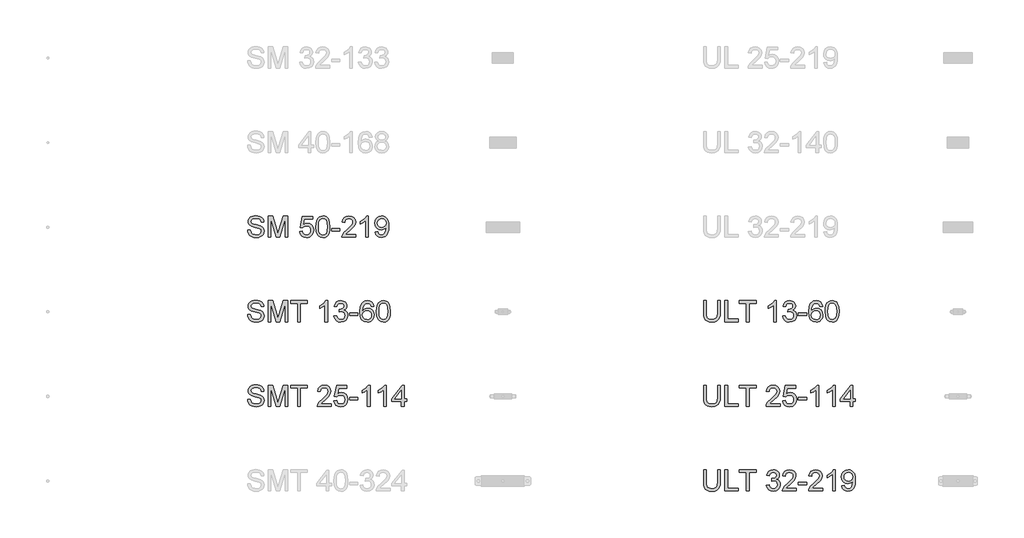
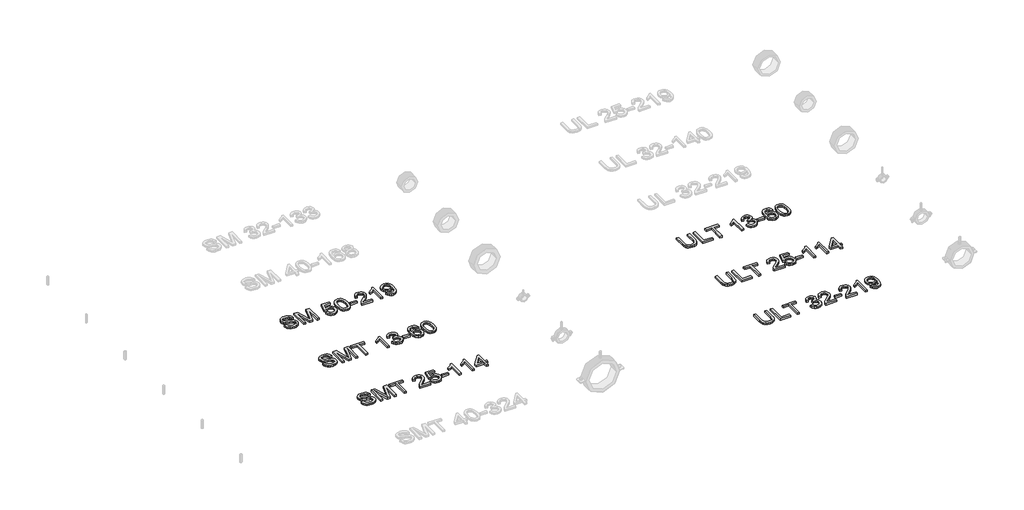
# One storey, part 6 of 10: 6 proxies.
"""IFC4 building model written with IfcOpenShell, lengths in millimetres."""

from ifc_helpers import new_model, si_unit, origin, origin_with_axes, place, context, project, spatial, polyline, outline, extrude, element, save

model = new_model("IFC4")

# Units and contexts
model_context = context("Model", 3, world=origin())
ifc_project = project(units=[si_unit("LENGTHUNIT", "METRE", prefix="MILLI")], contexts=[model_context])

# Site, building, storey
site = spatial("IfcSite", under=ifc_project)
building = spatial("IfcBuilding", under=site)
storey = spatial("IfcBuildingStorey", under=building, Name="Этаж 01", Elevation=0.0)

# Proxies
placement = place(None, origin())
element("IfcBuildingElementProxy", 1, Name="200 мм Arial", ObjectType="200 мм Arial", at=placement, inside=storey, context=model_context, shape_type="SweptSolid", body=[
    extrude(outline(polyline([(9162.1098597, -4725.9144615), (9187.2239373, -4725.9144615), (9195.3173412, -4751.0530645), (9203.4475333, -4759.9435461), (9215.084867, -4766.9455667), (9229.3096375, -4771.4889093), (9245.2021397, -4773.0033569), (9271.4443887, -4768.4170947), (9288.3914859, -4755.811005), (9293.9587668, -4738.9620096), (9289.7894375, -4723.2902366), (9283.4373417, -4717.091425), (9272.7197129, -4711.8858947), (9236.1522426, -4702.2964374), (9196.7888691, -4689.9110769), (9184.2870127, -4681.4620537), (9175.427188, -4671.2226715), (9170.1480813, -4659.4136595), (9168.3883791, -4646.2557468), (9170.5650143, -4631.5465984), (9177.0949197, -4617.8307313), (9187.8064171, -4606.2056603), (9202.5278283, -4597.7688998), (9220.1984268, -4592.636946), (9239.7574862, -4590.9262947), (9260.9474891, -4592.7166538), (9279.4887417, -4598.0877309), (9294.7190563, -4606.9291615), (9305.9762453, -4619.130581), (9313.1008933, -4633.9317), (9315.9335846, -4650.5722289), (9290.8195071, -4650.5722289), (9286.2087194, -4635.5871689), (9276.5947366, -4624.7714383), (9261.5728885, -4618.2231388), (9240.7385048, -4616.0403723), (9219.4136118, -4618.1986133), (9204.7841712, -4624.6733364), (9196.3228853, -4634.2014801), (9193.5024567, -4645.5199828), (9195.5012822, -4655.1707538), (9201.4977587, -4662.9330639), (9215.6734782, -4669.8737709), (9242.5043384, -4676.9616307), (9286.9444834, -4689.5677204), (9301.2612244, -4698.6789311), (9311.2492206, -4709.9238574), (9317.1169384, -4723.179872), (9319.0728443, -4738.3243475), (9316.8226328, -4753.8060481), (9310.0719982, -4768.3680437), (9299.096852, -4780.900557), (9284.1731057, -4790.2938107), (9266.2265957, -4796.1615285), (9246.1831584, -4798.1174344), (9221.5779843, -4796.0082443), (9201.3260804, -4789.680674), (9185.1944549, -4779.110198), (9172.9501159, -4764.2722909), (9165.0897039, -4746.1970222), (9162.1098597, -4725.9144615)])), origin_with_axes(), (0.0, 0.0, 1.0), 20.0),
    extrude(outline(polyline([(9356.7439606, -4794.9781747), (9356.7439606, -4594.0655544), (9399.9578323, -4594.0655544), (9441.0625139, -4735.6755971), (9449.3521216, -4765.2533095), (9458.3284422, -4733.2230505), (9498.7464108, -4594.0655544), (9541.9602825, -4594.0655544), (9541.9602825, -4794.9781747), (9516.8462049, -4794.9781747), (9516.8462049, -4619.179632), (9466.3727952, -4794.9781747), (9432.3314479, -4794.9781747), (9381.8580382, -4619.179632), (9381.8580382, -4794.9781747), (9356.7439606, -4794.9781747)])), origin_with_axes(), (0.0, 0.0, 1.0), 20.0),
    extrude(outline(polyline([(9654.9736314, -4741.61076), (9680.0877089, -4738.4715003), (9684.6984966, -4753.5485307), (9692.7428496, -4764.3458673), (9704.1839796, -4770.8389845), (9718.9850986, -4773.0033569), (9736.9867909, -4769.9928559), (9750.4757973, -4760.9613529), (9758.900295, -4746.9511803), (9761.7084609, -4729.0046703), (9759.0781047, -4712.1066239), (9751.1870359, -4699.1817032), (9737.9739409, -4690.9779347), (9719.377506, -4688.2433452), (9697.3291118, -4692.6088782), (9683.2269686, -4703.9396437), (9658.1128911, -4700.800384), (9680.0877089, -4597.2048141), (9777.4047594, -4597.2048141), (9777.4047594, -4622.3188917), (9700.3947951, -4622.3188917), (9689.6526408, -4677.6483437), (9707.5930194, -4666.7590367), (9726.3917894, -4663.1292677), (9749.8565293, -4667.6296907), (9769.335881, -4681.13096), (9782.4508741, -4701.7078262), (9786.8225385, -4727.4350404), (9782.8862011, -4752.5491179), (9771.0771891, -4774.0334265), (9760.6416031, -4784.5701799), (9748.4647091, -4792.0964324), (9734.546507, -4796.6121839), (9718.8869967, -4798.1174344), (9694.2205089, -4794.2485421), (9674.569479, -4782.6418652), (9661.0988666, -4764.6463042), (9654.9736314, -4741.61076)])), origin_with_axes(), (0.0, 0.0, 1.0), 20.0),
    extrude(outline(polyline([(9808.7973563, -4696.1405454), (9810.6428977, -4663.9815276), (9816.1795217, -4638.3340212), (9825.3520461, -4618.8056186), (9838.1052886, -4605.0039124), (9854.5312197, -4596.8001439), (9874.7218099, -4594.0655544), (9890.1973791, -4595.6842352), (9904.0542676, -4600.5402775), (9915.6425505, -4608.4436091), (9924.3123028, -4619.2041574), (9936.0845266, -4648.9290226), (9940.6462634, -4696.1405454), (9938.8191161, -4728.1156221), (9933.3376744, -4753.7018149), (9924.2203323, -4773.2486115), (9911.4854839, -4787.1055), (9895.0227646, -4795.3644508), (9874.7218099, -4798.1174344), (9848.6267137, -4793.3349685), (9828.8101369, -4778.9875707), (9820.0545454, -4763.8584236), (9813.8005515, -4745.007537), (9808.7973563, -4696.1405454)]), holes=[polyline([(9833.9114339, -4696.0914944), (9836.8544898, -4735.5958893), (9845.6836577, -4758.4597553), (9858.8293077, -4769.3674565), (9874.7218099, -4773.0033569), (9890.614312, -4769.3551938), (9903.759962, -4758.4107044), (9912.5891299, -4735.5345757), (9915.5321859, -4696.0914944), (9912.6872318, -4657.4761477), (9904.1523695, -4634.434472), (9891.031245, -4622.993342), (9874.4275043, -4619.179632), (9858.7066803, -4622.5396209), (9846.0760652, -4632.6195875), (9836.9525917, -4657.0960029), (9833.9114339, -4696.0914944)])]), origin_with_axes(), (0.0, 0.0, 1.0), 20.0),
    extrude(outline(polyline([(9956.3425619, -4735.3322406), (9956.3425619, -4710.218163), (10034.8240542, -4710.218163), (10034.8240542, -4735.3322406), (9956.3425619, -4735.3322406)])), origin_with_axes(), (0.0, 0.0, 1.0), 20.0),
    extrude(outline(polyline([(10185.5085194, -4769.8640972), (10185.5085194, -4794.9781747), (10053.6596123, -4794.9781747), (10056.3574136, -4777.6631955), (10071.6122537, -4751.0040136), (10103.0539015, -4721.892285), (10146.414926, -4680.0518394), (10154.5451181, -4665.6308652), (10157.2551822, -4651.6022985), (10154.6984023, -4639.0268656), (10147.0280627, -4628.5728856), (10135.2374447, -4621.5279454), (10120.3198298, -4619.179632), (10104.6541882, -4621.4727631), (10092.4834255, -4628.3521564), (10084.6291449, -4639.2782516), (10081.9129495, -4653.7114886), (10056.798872, -4650.5722289), (10062.887319, -4626.2797545), (10076.0513631, -4608.5355796), (10095.6042911, -4597.6830607), (10120.8593901, -4594.0655544), (10146.2984301, -4598.0877309), (10165.8145699, -4610.1542603), (10178.2305872, -4628.1804781), (10182.3692597, -4650.0817196), (10177.9056248, -4673.8959474), (10163.0677177, -4698.5195156), (10127.0888585, -4732.9287449), (10098.1978592, -4757.0863292), (10086.8670937, -4769.8640972), (10185.5085194, -4769.8640972)])), origin_with_axes(), (0.0, 0.0, 1.0), 20.0),
    extrude(outline(polyline([(10304.8003877, -4794.9781747), (10279.6863101, -4794.9781747), (10279.6863101, -4638.4075976), (10255.8966078, -4655.3546948), (10229.4581551, -4668.0343609), (10229.4581551, -4644.2937095), (10266.2708801, -4620.7983127), (10279.7414924, -4607.2234671), (10288.6135799, -4594.0655544), (10304.8003877, -4594.0655544), (10304.8003877, -4794.9781747)])), origin_with_axes(), (0.0, 0.0, 1.0), 20.0),
    extrude(outline(polyline([(10367.5855815, -4744.7500196), (10392.6996591, -4741.61076), (10396.9916157, -4755.8661873), (10403.9813736, -4765.5721406), (10413.4972545, -4771.1455528), (10425.3675802, -4773.0033569), (10445.6991918, -4768.2208909), (10459.4825039, -4755.443123), (10467.6985351, -4733.6154579), (10471.3283042, -4704.4792039), (10471.1811514, -4699.5741106), (10462.4807422, -4710.1936376), (10451.0947944, -4718.6058725), (10437.8449112, -4724.0873143), (10423.5526957, -4725.9144615), (10400.6520415, -4721.4508266), (10381.5896228, -4708.059922), (10368.7321471, -4687.3726911), (10364.4463218, -4661.0200775), (10368.9406135, -4633.7968099), (10382.4234887, -4612.4596542), (10402.6753925, -4598.6640794), (10427.4767703, -4594.0655544), (10446.2080953, -4596.6897793), (10463.2594257, -4604.562454), (10477.5209844, -4617.2911711), (10487.8829939, -4634.483523), (10494.1921702, -4658.2486999), (10496.2952289, -4690.6958918), (10494.1983015, -4725.0989897), (10487.9075194, -4751.6907266), (10477.4780649, -4771.6728503), (10462.9651201, -4786.2471087), (10444.9940847, -4795.149853), (10424.1903579, -4798.1174344), (10402.7183121, -4794.6164241), (10385.5872738, -4784.1133931), (10373.6065835, -4767.2705291), (10367.5855815, -4744.7500196)]), holes=[polyline([(10471.1811514, -4660.4314664), (10468.4710873, -4643.4107927), (10460.3408952, -4630.3141937), (10447.7225428, -4621.9632724), (10431.5479978, -4619.179632), (10414.7725788, -4622.1778702), (10401.3326232, -4631.172585), (10392.5034553, -4644.937503), (10389.5603994, -4662.2463509), (10392.3440398, -4677.7648397), (10400.6949611, -4690.0827552), (10413.8038229, -4698.1209768), (10430.8612847, -4700.800384), (10446.9070711, -4698.1209768), (10459.8258604, -4690.0827552), (10468.3423286, -4677.3111186), (10471.1811514, -4660.4314664)])]), origin_with_axes(), (0.0, 0.0, 1.0), 20.0),
])
element("IfcBuildingElementProxy", 2, Name="200 мм Arial", ObjectType="200 мм Arial", at=placement, inside=storey, context=model_context, shape_type="SweptSolid", body=[
    extrude(outline(polyline([(9162.1098597, -5525.9144615), (9187.2239373, -5525.9144615), (9195.3173412, -5551.0530645), (9203.4475333, -5559.9435461), (9215.084867, -5566.9455667), (9229.3096375, -5571.4889093), (9245.2021397, -5573.0033569), (9271.4443887, -5568.4170947), (9288.3914859, -5555.811005), (9293.9587668, -5538.9620096), (9289.7894375, -5523.2902366), (9283.4373417, -5517.091425), (9272.7197129, -5511.8858947), (9236.1522426, -5502.2964374), (9196.7888691, -5489.9110769), (9184.2870127, -5481.4620537), (9175.427188, -5471.2226715), (9170.1480813, -5459.4136595), (9168.3883791, -5446.2557468), (9170.5650143, -5431.5465984), (9177.0949197, -5417.8307313), (9187.8064171, -5406.2056603), (9202.5278283, -5397.7688998), (9220.1984268, -5392.636946), (9239.7574862, -5390.9262947), (9260.9474891, -5392.7166538), (9279.4887417, -5398.0877309), (9294.7190563, -5406.9291615), (9305.9762453, -5419.130581), (9313.1008933, -5433.9317), (9315.9335846, -5450.5722289), (9290.8195071, -5450.5722289), (9286.2087194, -5435.5871689), (9276.5947366, -5424.7714383), (9261.5728885, -5418.2231388), (9240.7385048, -5416.0403723), (9219.4136118, -5418.1986133), (9204.7841712, -5424.6733364), (9196.3228853, -5434.2014801), (9193.5024567, -5445.5199828), (9195.5012822, -5455.1707538), (9201.4977587, -5462.9330639), (9215.6734782, -5469.8737709), (9242.5043384, -5476.9616307), (9286.9444834, -5489.5677204), (9301.2612244, -5498.6789311), (9311.2492206, -5509.9238574), (9317.1169384, -5523.179872), (9319.0728443, -5538.3243475), (9316.8226328, -5553.8060481), (9310.0719982, -5568.3680437), (9299.096852, -5580.900557), (9284.1731057, -5590.2938107), (9266.2265957, -5596.1615285), (9246.1831584, -5598.1174344), (9221.5779843, -5596.0082443), (9201.3260804, -5589.680674), (9185.1944549, -5579.110198), (9172.9501159, -5564.2722909), (9165.0897039, -5546.1970222), (9162.1098597, -5525.9144615)])), origin_with_axes(), (0.0, 0.0, 1.0), 20.0),
    extrude(outline(polyline([(9356.7439606, -5594.9781747), (9356.7439606, -5394.0655544), (9399.9578323, -5394.0655544), (9441.0625139, -5535.6755971), (9449.3521216, -5565.2533095), (9458.3284422, -5533.2230505), (9498.7464108, -5394.0655544), (9541.9602825, -5394.0655544), (9541.9602825, -5594.9781747), (9516.8462049, -5594.9781747), (9516.8462049, -5419.179632), (9466.3727952, -5594.9781747), (9432.3314479, -5594.9781747), (9381.8580382, -5419.179632), (9381.8580382, -5594.9781747), (9356.7439606, -5594.9781747)])), origin_with_axes(), (0.0, 0.0, 1.0), 20.0),
    extrude(outline(polyline([(9636.1380732, -5594.9781747), (9636.1380732, -5419.179632), (9570.2136197, -5419.179632), (9570.2136197, -5394.0655544), (9727.1766043, -5394.0655544), (9727.1766043, -5419.179632), (9661.2521508, -5419.179632), (9661.2521508, -5594.9781747), (9636.1380732, -5594.9781747)])), origin_with_axes(), (0.0, 0.0, 1.0), 20.0),
    extrude(outline(polyline([(9918.6714455, -5594.9781747), (9893.557368, -5594.9781747), (9893.557368, -5438.4075976), (9869.7676657, -5455.3546948), (9843.3292129, -5468.0343609), (9843.3292129, -5444.2937095), (9880.1419379, -5420.7983127), (9893.6125503, -5407.2234671), (9902.4846378, -5394.0655544), (9918.6714455, -5394.0655544), (9918.6714455, -5594.9781747)])), origin_with_axes(), (0.0, 0.0, 1.0), 20.0),
    extrude(outline(polyline([(9978.3173797, -5541.61076), (10003.4314572, -5538.4715003), (10009.0539204, -5554.2536379), (10017.2883457, -5564.909953), (10028.5394034, -5570.9800059), (10043.2117636, -5573.0033569), (10060.428641, -5570.2197164), (10073.7214438, -5561.8687952), (10082.2195179, -5549.4098583), (10085.0522092, -5534.302171), (10082.2440433, -5519.9609045), (10073.8195456, -5508.3297021), (10061.0663031, -5500.6225743), (10045.2719028, -5498.0535317), (10027.662618, -5500.800384), (10030.4585211, -5475.6863064), (10034.4806976, -5475.980612), (10049.5270712, -5474.1779902), (10062.9792895, -5468.7701249), (10072.470645, -5459.622126), (10075.6344302, -5446.5991033), (10073.3412991, -5435.7527158), (10066.4619057, -5426.9542048), (10055.9650061, -5421.1232752), (10042.8193562, -5419.179632), (10029.6491808, -5421.1416693), (10018.882501, -5427.0277812), (10011.0220891, -5436.8379677), (10006.5707169, -5450.5722289), (9981.4566394, -5447.4329692), (9988.8510675, -5424.8818029), (10002.0089802, -5408.0450702), (10020.0106725, -5397.5604334), (10041.9364394, -5394.0655544), (10057.7247084, -5395.7884684), (10072.2253903, -5400.9572105), (10084.4513353, -5409.111928), (10093.4153933, -5419.7927686), (10098.9152291, -5432.0984214), (10100.7485077, -5445.1275754), (10099.0071996, -5457.2676812), (10093.7832752, -5468.2796156), (10085.1503111, -5477.6606065), (10073.1818835, -5484.9078818), (10088.9027074, -5491.2599776), (10100.552304, -5502.0757082), (10107.7627911, -5516.7664625), (10110.1662868, -5534.7436294), (10105.3592954, -5559.2200448), (10090.9383212, -5579.6742837), (10069.1719698, -5593.5066467), (10042.3288469, -5598.1174344), (10018.0486352, -5594.1810971), (9998.2811093, -5582.372085), (9984.5345854, -5564.3090791), (9978.3173797, -5541.61076)])), origin_with_axes(), (0.0, 0.0, 1.0), 20.0),
    extrude(outline(polyline([(10125.8625852, -5535.3322406), (10125.8625852, -5510.218163), (10204.3440775, -5510.218163), (10204.3440775, -5535.3322406), (10125.8625852, -5535.3322406)])), origin_with_axes(), (0.0, 0.0, 1.0), 20.0),
    extrude(outline(polyline([(10355.0285428, -5447.4329692), (10329.9144652, -5450.5722289), (10320.3985843, -5429.6274806), (10309.0065052, -5421.7915941), (10295.2354558, -5419.179632), (10272.5739249, -5425.2619476), (10263.1377517, -5434.8697991), (10255.4306239, -5448.0951568), (10250.2250937, -5466.8019562), (10248.2937132, -5492.8541329), (10258.3675485, -5481.1003031), (10270.4402093, -5472.8168269), (10283.8372453, -5467.9056022), (10297.8842062, -5466.2685273), (10321.0852973, -5470.744425), (10340.5585176, -5484.1721178), (10353.7654812, -5504.6876704), (10358.1678024, -5530.4271473), (10356.0954005, -5548.4104455), (10349.8781948, -5565.0816312), (10340.0312201, -5579.2205626), (10327.0695111, -5589.6070976), (10311.5816791, -5595.9898502), (10294.1563353, -5598.1174344), (10265.6638748, -5592.4765772), (10242.971687, -5575.5540054), (10234.3126646, -5562.4451436), (10228.1276485, -5545.6819874), (10223.1796357, -5501.1927914), (10228.6733401, -5451.1731028), (10235.5404707, -5432.0953557), (10245.1544535, -5416.97234), (10255.574711, -5406.9506213), (10267.6565689, -5399.7922508), (10296.8050857, -5394.0655544), (10318.8412172, -5397.6094843), (10336.4872902, -5408.241274), (10348.8481252, -5425.1270576), (10355.0285428, -5447.4329692)]), holes=[polyline([(10248.2937132, -5530.0347398), (10254.1062487, -5551.7888285), (10269.5572925, -5567.5832288), (10292.194298, -5573.0033569), (10308.7673819, -5570.195191), (10321.7965359, -5561.7706933), (10330.2394276, -5548.5269415), (10333.0537249, -5531.2610132), (10330.2762158, -5514.6879293), (10321.9436887, -5502.0511827), (10308.6938055, -5494.0497493), (10291.1642284, -5491.3826049), (10274.61567, -5494.0497493), (10260.7771756, -5502.0511827), (10251.4145788, -5514.3813609), (10248.2937132, -5530.0347398)])]), origin_with_axes(), (0.0, 0.0, 1.0), 20.0),
    extrude(outline(polyline([(10380.1426203, -5496.1405454), (10381.9881616, -5463.9815276), (10387.5247857, -5438.3340212), (10396.6973101, -5418.8056186), (10409.4505526, -5405.0039124), (10425.8764837, -5396.8001439), (10446.0670738, -5394.0655544), (10461.5426431, -5395.6842352), (10475.3995316, -5400.5402775), (10486.9878144, -5408.4436091), (10495.6575668, -5419.2041574), (10507.4297906, -5448.9290226), (10511.9915274, -5496.1405454), (10510.1643801, -5528.1156221), (10504.6829384, -5553.7018149), (10495.5655963, -5573.2486115), (10482.8307479, -5587.1055), (10466.3680286, -5595.3644508), (10446.0670738, -5598.1174344), (10419.9719776, -5593.3349685), (10400.1554008, -5578.9875707), (10391.3998093, -5563.8584236), (10385.1458154, -5545.007537), (10380.1426203, -5496.1405454)]), holes=[polyline([(10405.2566978, -5496.0914944), (10408.1997538, -5535.5958893), (10417.0289217, -5558.4597553), (10430.1745716, -5569.3674565), (10446.0670738, -5573.0033569), (10461.959576, -5569.3551938), (10475.105226, -5558.4107044), (10483.9343939, -5535.5345757), (10486.8774498, -5496.0914944), (10484.0324957, -5457.4761477), (10475.4976334, -5434.434472), (10462.3765089, -5422.993342), (10445.7727682, -5419.179632), (10430.0519443, -5422.5396209), (10417.4213291, -5432.6195875), (10408.2978557, -5457.0960029), (10405.2566978, -5496.0914944)])]), origin_with_axes(), (0.0, 0.0, 1.0), 20.0),
])
element("IfcBuildingElementProxy", 3, Name="200 мм Arial", ObjectType="200 мм Arial", at=placement, inside=storey, context=model_context, shape_type="SweptSolid", body=[
    extrude(outline(polyline([(9162.1098597, -6325.9144615), (9187.2239373, -6325.9144615), (9195.3173412, -6351.0530645), (9203.4475333, -6359.9435461), (9215.084867, -6366.9455667), (9229.3096375, -6371.4889093), (9245.2021397, -6373.0033569), (9271.4443887, -6368.4170947), (9288.3914859, -6355.811005), (9293.9587668, -6338.9620096), (9289.7894375, -6323.2902366), (9283.4373417, -6317.091425), (9272.7197129, -6311.8858947), (9236.1522426, -6302.2964374), (9196.7888691, -6289.9110769), (9184.2870127, -6281.4620537), (9175.427188, -6271.2226715), (9170.1480813, -6259.4136595), (9168.3883791, -6246.2557468), (9170.5650143, -6231.5465984), (9177.0949197, -6217.8307313), (9187.8064171, -6206.2056603), (9202.5278283, -6197.7688998), (9220.1984268, -6192.636946), (9239.7574862, -6190.9262947), (9260.9474891, -6192.7166538), (9279.4887417, -6198.0877309), (9294.7190563, -6206.9291615), (9305.9762453, -6219.130581), (9313.1008933, -6233.9317), (9315.9335846, -6250.5722289), (9290.8195071, -6250.5722289), (9286.2087194, -6235.5871689), (9276.5947366, -6224.7714383), (9261.5728885, -6218.2231388), (9240.7385048, -6216.0403723), (9219.4136118, -6218.1986133), (9204.7841712, -6224.6733364), (9196.3228853, -6234.2014801), (9193.5024567, -6245.5199828), (9195.5012822, -6255.1707538), (9201.4977587, -6262.9330639), (9215.6734782, -6269.8737709), (9242.5043384, -6276.9616307), (9286.9444834, -6289.5677204), (9301.2612244, -6298.6789311), (9311.2492206, -6309.9238574), (9317.1169384, -6323.179872), (9319.0728443, -6338.3243475), (9316.8226328, -6353.8060481), (9310.0719982, -6368.3680437), (9299.096852, -6380.900557), (9284.1731057, -6390.2938107), (9266.2265957, -6396.1615285), (9246.1831584, -6398.1174344), (9221.5779843, -6396.0082443), (9201.3260804, -6389.680674), (9185.1944549, -6379.110198), (9172.9501159, -6364.2722909), (9165.0897039, -6346.1970222), (9162.1098597, -6325.9144615)])), origin_with_axes(), (0.0, 0.0, 1.0), 20.0),
    extrude(outline(polyline([(9356.7439606, -6394.9781747), (9356.7439606, -6194.0655544), (9399.9578323, -6194.0655544), (9441.0625139, -6335.6755971), (9449.3521216, -6365.2533095), (9458.3284422, -6333.2230505), (9498.7464108, -6194.0655544), (9541.9602825, -6194.0655544), (9541.9602825, -6394.9781747), (9516.8462049, -6394.9781747), (9516.8462049, -6219.179632), (9466.3727952, -6394.9781747), (9432.3314479, -6394.9781747), (9381.8580382, -6219.179632), (9381.8580382, -6394.9781747), (9356.7439606, -6394.9781747)])), origin_with_axes(), (0.0, 0.0, 1.0), 20.0),
    extrude(outline(polyline([(9636.1380732, -6394.9781747), (9636.1380732, -6219.179632), (9570.2136197, -6219.179632), (9570.2136197, -6194.0655544), (9727.1766043, -6194.0655544), (9727.1766043, -6219.179632), (9661.2521508, -6219.179632), (9661.2521508, -6394.9781747), (9636.1380732, -6394.9781747)])), origin_with_axes(), (0.0, 0.0, 1.0), 20.0),
    extrude(outline(polyline([(9953.2033022, -6369.8640972), (9953.2033022, -6394.9781747), (9821.3543951, -6394.9781747), (9824.0521964, -6377.6631955), (9839.3070365, -6351.0040136), (9870.7486843, -6321.892285), (9914.1097088, -6280.0518394), (9922.2399009, -6265.6308652), (9924.9499649, -6251.6022985), (9922.3931851, -6239.0268656), (9914.7228455, -6228.5728856), (9902.9322275, -6221.5279454), (9888.0146126, -6219.179632), (9872.348971, -6221.4727631), (9860.1782083, -6228.3521564), (9852.3239277, -6239.2782516), (9849.6077323, -6253.7114886), (9824.4936548, -6250.5722289), (9830.5821018, -6226.2797545), (9843.7461459, -6208.5355796), (9863.2990739, -6197.6830607), (9888.5541729, -6194.0655544), (9913.9932128, -6198.0877309), (9933.5093527, -6210.1542603), (9945.92537, -6228.1804781), (9950.0640425, -6250.0817196), (9945.6004076, -6273.8959474), (9930.7625005, -6298.5195156), (9894.7836413, -6332.9287449), (9865.892642, -6357.0863292), (9854.5618765, -6369.8640972), (9953.2033022, -6369.8640972)])), origin_with_axes(), (0.0, 0.0, 1.0), 20.0),
    extrude(outline(polyline([(9978.3173797, -6341.61076), (10003.4314572, -6338.4715003), (10008.0422449, -6353.5485307), (10016.0865979, -6364.3458673), (10027.5277279, -6370.8389845), (10042.3288469, -6373.0033569), (10060.3305392, -6369.9928559), (10073.8195456, -6360.9613529), (10082.2440433, -6346.9511803), (10085.0522092, -6329.0046703), (10082.421853, -6312.1066239), (10074.5307842, -6299.1817032), (10061.3176892, -6290.9779347), (10042.7212543, -6288.2433452), (10020.6728601, -6292.6088782), (10006.5707169, -6303.9396437), (9981.4566394, -6300.800384), (10003.4314572, -6197.2048141), (10100.7485077, -6197.2048141), (10100.7485077, -6222.3188917), (10023.7385434, -6222.3188917), (10012.9963891, -6277.6483437), (10030.9367677, -6266.7590367), (10049.7355377, -6263.1292677), (10073.2002776, -6267.6296907), (10092.6796293, -6281.13096), (10105.7946224, -6301.7078262), (10110.1662868, -6327.4350404), (10106.2299494, -6352.5491179), (10094.4209374, -6374.0334265), (10083.9853514, -6384.5701799), (10071.8084574, -6392.0964324), (10057.8902553, -6396.6121839), (10042.230745, -6398.1174344), (10017.5642572, -6394.2485421), (9997.9132273, -6382.6418652), (9984.4426149, -6364.6463042), (9978.3173797, -6341.61076)])), origin_with_axes(), (0.0, 0.0, 1.0), 20.0),
    extrude(outline(polyline([(10125.8625852, -6335.3322406), (10125.8625852, -6310.218163), (10204.3440775, -6310.218163), (10204.3440775, -6335.3322406), (10125.8625852, -6335.3322406)])), origin_with_axes(), (0.0, 0.0, 1.0), 20.0),
    extrude(outline(polyline([(10320.4966861, -6394.9781747), (10295.3826086, -6394.9781747), (10295.3826086, -6238.4075976), (10271.5929063, -6255.3546948), (10245.1544535, -6268.0343609), (10245.1544535, -6244.2937095), (10281.9671785, -6220.7983127), (10295.4377909, -6207.2234671), (10304.3098784, -6194.0655544), (10320.4966861, -6194.0655544), (10320.4966861, -6394.9781747)])), origin_with_axes(), (0.0, 0.0, 1.0), 20.0),
    extrude(outline(polyline([(10474.3204111, -6394.9781747), (10449.2063335, -6394.9781747), (10449.2063335, -6238.4075976), (10425.4166312, -6255.3546948), (10398.9781784, -6268.0343609), (10398.9781784, -6244.2937095), (10435.7909034, -6220.7983127), (10449.2615158, -6207.2234671), (10458.1336033, -6194.0655544), (10474.3204111, -6194.0655544), (10474.3204111, -6394.9781747)])), origin_with_axes(), (0.0, 0.0, 1.0), 20.0),
    extrude(outline(polyline([(10615.5870972, -6394.9781747), (10615.5870972, -6347.8892793), (10524.5485661, -6347.8892793), (10524.5485661, -6322.7752018), (10621.8656166, -6197.2048141), (10640.7011747, -6197.2048141), (10640.7011747, -6322.7752018), (10665.8152523, -6322.7752018), (10665.8152523, -6347.8892793), (10640.7011747, -6347.8892793), (10640.7011747, -6394.9781747), (10615.5870972, -6394.9781747)]), holes=[polyline([(10615.5870972, -6322.7752018), (10615.5870972, -6245.1766263), (10555.4506537, -6322.7752018), (10615.5870972, -6322.7752018)])]), origin_with_axes(), (0.0, 0.0, 1.0), 20.0),
])
element("IfcBuildingElementProxy", 4, Name="200 мм Arial", ObjectType="200 мм Arial", at=placement, inside=storey, context=model_context, shape_type="SweptSolid", body=[
    extrude(outline(polyline([(13603.3765459, -5394.0655544), (13628.4906234, -5394.0655544), (13628.4906234, -5509.9729084), (13626.7861035, -5537.1164682), (13621.6725438, -5558.0182969), (13612.1198746, -5574.1437911), (13597.0980265, -5586.9583472), (13576.5702112, -5595.3276626), (13550.4996404, -5598.1174344), (13524.9992868, -5595.6894132), (13504.6124929, -5588.4053497), (13489.3331274, -5576.5166299), (13479.1550588, -5560.2746398), (13473.4344938, -5538.4898944), (13471.5276388, -5509.9729084), (13471.5276388, -5394.0655544), (13496.6417163, -5394.0655544), (13496.6417163, -5509.0899916), (13497.8802524, -5531.659552), (13501.5958605, -5547.3742445), (13508.3281011, -5558.2574202), (13518.6165342, -5566.33243), (13532.0319643, -5571.3356252), (13548.1451957, -5573.0033569), (13573.6884689, -5569.7046817), (13590.6723543, -5559.808656), (13600.200498, -5540.5316394), (13603.3765459, -5509.0899916), (13603.3765459, -5394.0655544)])), origin_with_axes(), (0.0, 0.0, 1.0), 20.0),
    extrude(outline(polyline([(13672.4402591, -5594.9781747), (13672.4402591, -5394.0655544), (13697.5543366, -5394.0655544), (13697.5543366, -5569.8640972), (13798.0106468, -5569.8640972), (13798.0106468, -5594.9781747), (13672.4402591, -5594.9781747)])), origin_with_axes(), (0.0, 0.0, 1.0), 20.0),
    extrude(outline(polyline([(13876.4921391, -5594.9781747), (13876.4921391, -5419.179632), (13810.5676856, -5419.179632), (13810.5676856, -5394.0655544), (13967.5306702, -5394.0655544), (13967.5306702, -5419.179632), (13901.6062166, -5419.179632), (13901.6062166, -5594.9781747), (13876.4921391, -5594.9781747)])), origin_with_axes(), (0.0, 0.0, 1.0), 20.0),
    extrude(outline(polyline([(14159.0255114, -5594.9781747), (14133.9114339, -5594.9781747), (14133.9114339, -5438.4075976), (14110.1217315, -5455.3546948), (14083.6832788, -5468.0343609), (14083.6832788, -5444.2937095), (14120.4960038, -5420.7983127), (14133.9666162, -5407.2234671), (14142.8387036, -5394.0655544), (14159.0255114, -5394.0655544), (14159.0255114, -5594.9781747)])), origin_with_axes(), (0.0, 0.0, 1.0), 20.0),
    extrude(outline(polyline([(14218.6714455, -5541.61076), (14243.7855231, -5538.4715003), (14249.4079862, -5554.2536379), (14257.6424116, -5564.909953), (14268.8934693, -5570.9800059), (14283.5658295, -5573.0033569), (14300.7827069, -5570.2197164), (14314.0755096, -5561.8687952), (14322.5735837, -5549.4098583), (14325.4062751, -5534.302171), (14322.5981092, -5519.9609045), (14314.1736115, -5508.3297021), (14301.420369, -5500.6225743), (14285.6259687, -5498.0535317), (14268.0166838, -5500.800384), (14270.812587, -5475.6863064), (14274.8347635, -5475.980612), (14289.8811371, -5474.1779902), (14303.3333554, -5468.7701249), (14312.8247108, -5459.622126), (14315.988496, -5446.5991033), (14313.6953649, -5435.7527158), (14306.8159716, -5426.9542048), (14296.319072, -5421.1232752), (14283.173422, -5419.179632), (14270.0032466, -5421.1416693), (14259.2365669, -5427.0277812), (14251.3761549, -5436.8379677), (14246.9247828, -5450.5722289), (14221.8107052, -5447.4329692), (14229.2051333, -5424.8818029), (14242.363046, -5408.0450702), (14260.3647383, -5397.5604334), (14282.2905052, -5394.0655544), (14298.0787742, -5395.7884684), (14312.5794562, -5400.9572105), (14324.8054012, -5409.111928), (14333.7694591, -5419.7927686), (14339.2692949, -5432.0984214), (14341.1025735, -5445.1275754), (14339.3612654, -5457.2676812), (14334.1373411, -5468.2796156), (14325.5043769, -5477.6606065), (14313.5359494, -5484.9078818), (14329.2567733, -5491.2599776), (14340.9063698, -5502.0757082), (14348.1168569, -5516.7664625), (14350.5203526, -5534.7436294), (14345.7133612, -5559.2200448), (14331.292387, -5579.6742837), (14309.5260356, -5593.5066467), (14282.6829127, -5598.1174344), (14258.402701, -5594.1810971), (14238.6351751, -5582.372085), (14224.8886513, -5564.3090791), (14218.6714455, -5541.61076)])), origin_with_axes(), (0.0, 0.0, 1.0), 20.0),
    extrude(outline(polyline([(14366.2166511, -5535.3322406), (14366.2166511, -5510.218163), (14444.6981434, -5510.218163), (14444.6981434, -5535.3322406), (14366.2166511, -5535.3322406)])), origin_with_axes(), (0.0, 0.0, 1.0), 20.0),
    extrude(outline(polyline([(14595.3826086, -5447.4329692), (14570.2685311, -5450.5722289), (14560.7526501, -5429.6274806), (14549.360571, -5421.7915941), (14535.5895217, -5419.179632), (14512.9279908, -5425.2619476), (14503.4918176, -5434.8697991), (14495.7846898, -5448.0951568), (14490.5791595, -5466.8019562), (14488.6477791, -5492.8541329), (14498.7216144, -5481.1003031), (14510.7942752, -5472.8168269), (14524.1913112, -5467.9056022), (14538.238272, -5466.2685273), (14561.4393632, -5470.744425), (14580.9125835, -5484.1721178), (14594.1195471, -5504.6876704), (14598.5218683, -5530.4271473), (14596.4494664, -5548.4104455), (14590.2322607, -5565.0816312), (14580.3852859, -5579.2205626), (14567.423577, -5589.6070976), (14551.935745, -5595.9898502), (14534.5104011, -5598.1174344), (14506.0179406, -5592.4765772), (14483.3257529, -5575.5540054), (14474.6667304, -5562.4451436), (14468.4817144, -5545.6819874), (14463.5337015, -5501.1927914), (14469.027406, -5451.1731028), (14475.8945366, -5432.0953557), (14485.5085194, -5416.97234), (14495.9287769, -5406.9506213), (14508.0106348, -5399.7922508), (14537.1591515, -5394.0655544), (14559.195283, -5397.6094843), (14576.841356, -5408.241274), (14589.2021911, -5425.1270576), (14595.3826086, -5447.4329692)]), holes=[polyline([(14488.6477791, -5530.0347398), (14494.4603146, -5551.7888285), (14509.9113584, -5567.5832288), (14532.5483638, -5573.0033569), (14549.1214477, -5570.195191), (14562.1506017, -5561.7706933), (14570.5934935, -5548.5269415), (14573.4077908, -5531.2610132), (14570.6302817, -5514.6879293), (14562.2977545, -5502.0511827), (14549.0478713, -5494.0497493), (14531.5182942, -5491.3826049), (14514.9697358, -5494.0497493), (14501.1312414, -5502.0511827), (14491.7686447, -5514.3813609), (14488.6477791, -5530.0347398)])]), origin_with_axes(), (0.0, 0.0, 1.0), 20.0),
    extrude(outline(polyline([(14620.4966861, -5496.1405454), (14622.3422275, -5463.9815276), (14627.8788515, -5438.3340212), (14637.0513759, -5418.8056186), (14649.8046184, -5405.0039124), (14666.2305495, -5396.8001439), (14686.4211397, -5394.0655544), (14701.8967089, -5395.6842352), (14715.7535974, -5400.5402775), (14727.3418803, -5408.4436091), (14736.0116326, -5419.2041574), (14747.7838565, -5448.9290226), (14752.3455932, -5496.1405454), (14750.518446, -5528.1156221), (14745.0370042, -5553.7018149), (14735.9196621, -5573.2486115), (14723.1848137, -5587.1055), (14706.7220944, -5595.3644508), (14686.4211397, -5598.1174344), (14660.3260435, -5593.3349685), (14640.5094667, -5578.9875707), (14631.7538752, -5563.8584236), (14625.4998813, -5545.007537), (14620.4966861, -5496.1405454)]), holes=[polyline([(14645.6107637, -5496.0914944), (14648.5538196, -5535.5958893), (14657.3829875, -5558.4597553), (14670.5286375, -5569.3674565), (14686.4211397, -5573.0033569), (14702.3136419, -5569.3551938), (14715.4592918, -5558.4107044), (14724.2884597, -5535.5345757), (14727.2315157, -5496.0914944), (14724.3865616, -5457.4761477), (14715.8516993, -5434.434472), (14702.7305748, -5422.993342), (14686.1268341, -5419.179632), (14670.4060102, -5422.5396209), (14657.775395, -5432.6195875), (14648.6519215, -5457.0960029), (14645.6107637, -5496.0914944)])]), origin_with_axes(), (0.0, 0.0, 1.0), 20.0),
])
element("IfcBuildingElementProxy", 5, Name="200 мм Arial", ObjectType="200 мм Arial", at=placement, inside=storey, context=model_context, shape_type="SweptSolid", body=[
    extrude(outline(polyline([(13603.3765459, -6194.0655544), (13628.4906234, -6194.0655544), (13628.4906234, -6309.9729084), (13626.7861035, -6337.1164682), (13621.6725438, -6358.0182969), (13612.1198746, -6374.1437911), (13597.0980265, -6386.9583472), (13576.5702112, -6395.3276626), (13550.4996404, -6398.1174344), (13524.9992868, -6395.6894132), (13504.6124929, -6388.4053497), (13489.3331274, -6376.5166299), (13479.1550588, -6360.2746398), (13473.4344938, -6338.4898944), (13471.5276388, -6309.9729084), (13471.5276388, -6194.0655544), (13496.6417163, -6194.0655544), (13496.6417163, -6309.0899916), (13497.8802524, -6331.659552), (13501.5958605, -6347.3742445), (13508.3281011, -6358.2574202), (13518.6165342, -6366.33243), (13532.0319643, -6371.3356252), (13548.1451957, -6373.0033569), (13573.6884689, -6369.7046817), (13590.6723543, -6359.808656), (13600.200498, -6340.5316394), (13603.3765459, -6309.0899916), (13603.3765459, -6194.0655544)])), origin_with_axes(), (0.0, 0.0, 1.0), 20.0),
    extrude(outline(polyline([(13672.4402591, -6394.9781747), (13672.4402591, -6194.0655544), (13697.5543366, -6194.0655544), (13697.5543366, -6369.8640972), (13798.0106468, -6369.8640972), (13798.0106468, -6394.9781747), (13672.4402591, -6394.9781747)])), origin_with_axes(), (0.0, 0.0, 1.0), 20.0),
    extrude(outline(polyline([(13876.4921391, -6394.9781747), (13876.4921391, -6219.179632), (13810.5676856, -6219.179632), (13810.5676856, -6194.0655544), (13967.5306702, -6194.0655544), (13967.5306702, -6219.179632), (13901.6062166, -6219.179632), (13901.6062166, -6394.9781747), (13876.4921391, -6394.9781747)])), origin_with_axes(), (0.0, 0.0, 1.0), 20.0),
    extrude(outline(polyline([(14193.557368, -6369.8640972), (14193.557368, -6394.9781747), (14061.7084609, -6394.9781747), (14064.4062622, -6377.6631955), (14079.6611023, -6351.0040136), (14111.1027502, -6321.892285), (14154.4637747, -6280.0518394), (14162.5939667, -6265.6308652), (14165.3040308, -6251.6022985), (14162.7472509, -6239.0268656), (14155.0769113, -6228.5728856), (14143.2862934, -6221.5279454), (14128.3686785, -6219.179632), (14112.7030368, -6221.4727631), (14100.5322742, -6228.3521564), (14092.6779936, -6239.2782516), (14089.9617982, -6253.7114886), (14064.8477206, -6250.5722289), (14070.9361676, -6226.2797545), (14084.1002117, -6208.5355796), (14103.6531398, -6197.6830607), (14128.9082387, -6194.0655544), (14154.3472787, -6198.0877309), (14173.8634185, -6210.1542603), (14186.2794359, -6228.1804781), (14190.4181083, -6250.0817196), (14185.9544734, -6273.8959474), (14171.1165663, -6298.5195156), (14135.1377072, -6332.9287449), (14106.2467078, -6357.0863292), (14094.9159424, -6369.8640972), (14193.557368, -6369.8640972)])), origin_with_axes(), (0.0, 0.0, 1.0), 20.0),
    extrude(outline(polyline([(14218.6714455, -6341.61076), (14243.7855231, -6338.4715003), (14248.3963108, -6353.5485307), (14256.4406637, -6364.3458673), (14267.8817938, -6370.8389845), (14282.6829127, -6373.0033569), (14300.684605, -6369.9928559), (14314.1736115, -6360.9613529), (14322.5981092, -6346.9511803), (14325.4062751, -6329.0046703), (14322.7759188, -6312.1066239), (14314.88485, -6299.1817032), (14301.671755, -6290.9779347), (14283.0753202, -6288.2433452), (14261.0269259, -6292.6088782), (14246.9247828, -6303.9396437), (14221.8107052, -6300.800384), (14243.7855231, -6197.2048141), (14341.1025735, -6197.2048141), (14341.1025735, -6222.3188917), (14264.0926092, -6222.3188917), (14253.350455, -6277.6483437), (14271.2908336, -6266.7590367), (14290.0896035, -6263.1292677), (14313.5543435, -6267.6296907), (14333.0336951, -6281.13096), (14346.1486882, -6301.7078262), (14350.5203526, -6327.4350404), (14346.5840153, -6352.5491179), (14334.7750032, -6374.0334265), (14324.3394173, -6384.5701799), (14312.1625233, -6392.0964324), (14298.2443211, -6396.6121839), (14282.5848108, -6398.1174344), (14257.9183231, -6394.2485421), (14238.2672932, -6382.6418652), (14224.7966808, -6364.6463042), (14218.6714455, -6341.61076)])), origin_with_axes(), (0.0, 0.0, 1.0), 20.0),
    extrude(outline(polyline([(14366.2166511, -6335.3322406), (14366.2166511, -6310.218163), (14444.6981434, -6310.218163), (14444.6981434, -6335.3322406), (14366.2166511, -6335.3322406)])), origin_with_axes(), (0.0, 0.0, 1.0), 20.0),
    extrude(outline(polyline([(14560.850752, -6394.9781747), (14535.7366745, -6394.9781747), (14535.7366745, -6238.4075976), (14511.9469721, -6255.3546948), (14485.5085194, -6268.0343609), (14485.5085194, -6244.2937095), (14522.3212444, -6220.7983127), (14535.7918568, -6207.2234671), (14544.6639442, -6194.0655544), (14560.850752, -6194.0655544), (14560.850752, -6394.9781747)])), origin_with_axes(), (0.0, 0.0, 1.0), 20.0),
    extrude(outline(polyline([(14714.6744769, -6394.9781747), (14689.5603994, -6394.9781747), (14689.5603994, -6238.4075976), (14665.770697, -6255.3546948), (14639.3322443, -6268.0343609), (14639.3322443, -6244.2937095), (14676.1449693, -6220.7983127), (14689.6155817, -6207.2234671), (14698.4876691, -6194.0655544), (14714.6744769, -6194.0655544), (14714.6744769, -6394.9781747)])), origin_with_axes(), (0.0, 0.0, 1.0), 20.0),
    extrude(outline(polyline([(14855.9411631, -6394.9781747), (14855.9411631, -6347.8892793), (14764.902632, -6347.8892793), (14764.902632, -6322.7752018), (14862.2196824, -6197.2048141), (14881.0552406, -6197.2048141), (14881.0552406, -6322.7752018), (14906.1693181, -6322.7752018), (14906.1693181, -6347.8892793), (14881.0552406, -6347.8892793), (14881.0552406, -6394.9781747), (14855.9411631, -6394.9781747)]), holes=[polyline([(14855.9411631, -6322.7752018), (14855.9411631, -6245.1766263), (14795.8047196, -6322.7752018), (14855.9411631, -6322.7752018)])]), origin_with_axes(), (0.0, 0.0, 1.0), 20.0),
])
element("IfcBuildingElementProxy", 6, Name="200 мм Arial", ObjectType="200 мм Arial", at=placement, inside=storey, context=model_context, shape_type="SweptSolid", body=[
    extrude(outline(polyline([(13603.3765459, -6994.0655544), (13628.4906234, -6994.0655544), (13628.4906234, -7109.9729084), (13626.7861035, -7137.1164682), (13621.6725438, -7158.0182969), (13612.1198746, -7174.1437911), (13597.0980265, -7186.9583472), (13576.5702112, -7195.3276626), (13550.4996404, -7198.1174344), (13524.9992868, -7195.6894132), (13504.6124929, -7188.4053497), (13489.3331274, -7176.5166299), (13479.1550588, -7160.2746398), (13473.4344938, -7138.4898944), (13471.5276388, -7109.9729084), (13471.5276388, -6994.0655544), (13496.6417163, -6994.0655544), (13496.6417163, -7109.0899916), (13497.8802524, -7131.659552), (13501.5958605, -7147.3742445), (13508.3281011, -7158.2574202), (13518.6165342, -7166.33243), (13532.0319643, -7171.3356252), (13548.1451957, -7173.0033569), (13573.6884689, -7169.7046817), (13590.6723543, -7159.808656), (13600.200498, -7140.5316394), (13603.3765459, -7109.0899916), (13603.3765459, -6994.0655544)])), origin_with_axes(), (0.0, 0.0, 1.0), 20.0),
    extrude(outline(polyline([(13672.4402591, -7194.9781747), (13672.4402591, -6994.0655544), (13697.5543366, -6994.0655544), (13697.5543366, -7169.8640972), (13798.0106468, -7169.8640972), (13798.0106468, -7194.9781747), (13672.4402591, -7194.9781747)])), origin_with_axes(), (0.0, 0.0, 1.0), 20.0),
    extrude(outline(polyline([(13876.4921391, -7194.9781747), (13876.4921391, -7019.179632), (13810.5676856, -7019.179632), (13810.5676856, -6994.0655544), (13967.5306702, -6994.0655544), (13967.5306702, -7019.179632), (13901.6062166, -7019.179632), (13901.6062166, -7194.9781747), (13876.4921391, -7194.9781747)])), origin_with_axes(), (0.0, 0.0, 1.0), 20.0),
    extrude(outline(polyline([(14064.8477206, -7141.61076), (14089.9617982, -7138.4715003), (14095.5842613, -7154.2536379), (14103.8186867, -7164.909953), (14115.0697443, -7170.9800059), (14129.7421046, -7173.0033569), (14146.958982, -7170.2197164), (14160.2517847, -7161.8687952), (14168.7498588, -7149.4098583), (14171.5825502, -7134.302171), (14168.7743843, -7119.9609045), (14160.3498866, -7108.3297021), (14147.5966441, -7100.6225743), (14131.8022438, -7098.0535317), (14114.1929589, -7100.800384), (14116.9888621, -7075.6863064), (14121.0110386, -7075.980612), (14136.0574122, -7074.1779902), (14149.5096305, -7068.7701249), (14159.0009859, -7059.622126), (14162.1647711, -7046.5991033), (14159.87164, -7035.7527158), (14152.9922467, -7026.9542048), (14142.4953471, -7021.1232752), (14129.3496971, -7019.179632), (14116.1795217, -7021.1416693), (14105.412842, -7027.0277812), (14097.55243, -7036.8379677), (14093.1010579, -7050.5722289), (14067.9869803, -7047.4329692), (14075.3814084, -7024.8818029), (14088.5393211, -7008.0450702), (14106.5410134, -6997.5604334), (14128.4667803, -6994.0655544), (14144.2550493, -6995.7884684), (14158.7557313, -7000.9572105), (14170.9816762, -7009.111928), (14179.9457342, -7019.7927686), (14185.44557, -7032.0984214), (14187.2788486, -7045.1275754), (14185.5375405, -7057.2676812), (14180.3136162, -7068.2796156), (14171.680652, -7077.6606065), (14159.7122245, -7084.9078818), (14175.4330484, -7091.2599776), (14187.0826449, -7102.0757082), (14194.293132, -7116.7664625), (14196.6966277, -7134.7436294), (14191.8896363, -7159.2200448), (14177.4686621, -7179.6742837), (14155.7023107, -7193.5066467), (14128.8591878, -7198.1174344), (14104.5789761, -7194.1810971), (14084.8114502, -7182.372085), (14071.0649263, -7164.3090791), (14064.8477206, -7141.61076)])), origin_with_axes(), (0.0, 0.0, 1.0), 20.0),
    extrude(outline(polyline([(14347.3810929, -7169.8640972), (14347.3810929, -7194.9781747), (14215.5321859, -7194.9781747), (14218.2299872, -7177.6631955), (14233.4848272, -7151.0040136), (14264.9264751, -7121.892285), (14308.2874996, -7080.0518394), (14316.4176917, -7065.6308652), (14319.1277557, -7051.6022985), (14316.5709758, -7039.0268656), (14308.9006362, -7028.5728856), (14297.1100183, -7021.5279454), (14282.1924034, -7019.179632), (14266.5267618, -7021.4727631), (14254.3559991, -7028.3521564), (14246.5017185, -7039.2782516), (14243.7855231, -7053.7114886), (14218.6714455, -7050.5722289), (14224.7598926, -7026.2797545), (14237.9239366, -7008.5355796), (14257.4768647, -6997.6830607), (14282.7319636, -6994.0655544), (14308.1710036, -6998.0877309), (14327.6871434, -7010.1542603), (14340.1031608, -7028.1804781), (14344.2418332, -7050.0817196), (14339.7781984, -7073.8959474), (14324.9402912, -7098.5195156), (14288.9614321, -7132.9287449), (14260.0704327, -7157.0863292), (14248.7396673, -7169.8640972), (14347.3810929, -7169.8640972)])), origin_with_axes(), (0.0, 0.0, 1.0), 20.0),
    extrude(outline(polyline([(14366.2166511, -7135.3322406), (14366.2166511, -7110.218163), (14444.6981434, -7110.218163), (14444.6981434, -7135.3322406), (14366.2166511, -7135.3322406)])), origin_with_axes(), (0.0, 0.0, 1.0), 20.0),
    extrude(outline(polyline([(14595.3826086, -7169.8640972), (14595.3826086, -7194.9781747), (14463.5337015, -7194.9781747), (14466.2315028, -7177.6631955), (14481.4863429, -7151.0040136), (14512.9279908, -7121.892285), (14556.2890153, -7080.0518394), (14564.4192073, -7065.6308652), (14567.1292714, -7051.6022985), (14564.5724915, -7039.0268656), (14556.9021519, -7028.5728856), (14545.111534, -7021.5279454), (14530.1939191, -7019.179632), (14514.5282774, -7021.4727631), (14502.3575148, -7028.3521564), (14494.5032342, -7039.2782516), (14491.7870388, -7053.7114886), (14466.6729612, -7050.5722289), (14472.7614082, -7026.2797545), (14485.9254523, -7008.5355796), (14505.4783804, -6997.6830607), (14530.7334793, -6994.0655544), (14556.1725193, -6998.0877309), (14575.6886591, -7010.1542603), (14588.1046765, -7028.1804781), (14592.2433489, -7050.0817196), (14587.779714, -7073.8959474), (14572.9418069, -7098.5195156), (14536.9629478, -7132.9287449), (14508.0719484, -7157.0863292), (14496.741183, -7169.8640972), (14595.3826086, -7169.8640972)])), origin_with_axes(), (0.0, 0.0, 1.0), 20.0),
    extrude(outline(polyline([(14714.6744769, -7194.9781747), (14689.5603994, -7194.9781747), (14689.5603994, -7038.4075976), (14665.770697, -7055.3546948), (14639.3322443, -7068.0343609), (14639.3322443, -7044.2937095), (14676.1449693, -7020.7983127), (14689.6155817, -7007.2234671), (14698.4876691, -6994.0655544), (14714.6744769, -6994.0655544), (14714.6744769, -7194.9781747)])), origin_with_axes(), (0.0, 0.0, 1.0), 20.0),
    extrude(outline(polyline([(14777.4596708, -7144.7500196), (14802.5737483, -7141.61076), (14806.8657049, -7155.8661873), (14813.8554628, -7165.5721406), (14823.3713437, -7171.1455528), (14835.2416695, -7173.0033569), (14855.5732811, -7168.2208909), (14869.3565931, -7155.443123), (14877.5726244, -7133.6154579), (14881.2023934, -7104.4792039), (14881.0552406, -7099.5741106), (14872.3548314, -7110.1936376), (14860.9688837, -7118.6058725), (14847.7190005, -7124.0873143), (14833.426785, -7125.9144615), (14810.5261308, -7121.4508266), (14791.463712, -7108.059922), (14778.6062363, -7087.3726911), (14774.3204111, -7061.0200775), (14778.8147028, -7033.7968099), (14792.2975779, -7012.4596542), (14812.5494817, -6998.6640794), (14837.3508596, -6994.0655544), (14856.0821845, -6996.6897793), (14873.133515, -7004.562454), (14887.3950736, -7017.2911711), (14897.7570832, -7034.483523), (14904.0662594, -7058.2486999), (14906.1693181, -7090.6958918), (14904.0723908, -7125.0989897), (14897.7816086, -7151.6907266), (14887.3521541, -7171.6728503), (14872.8392094, -7186.2471087), (14854.8681739, -7195.149853), (14834.0644471, -7198.1174344), (14812.5924013, -7194.6164241), (14795.461363, -7184.1133931), (14783.4806727, -7167.2705291), (14777.4596708, -7144.7500196)]), holes=[polyline([(14881.0552406, -7060.4314664), (14878.3451766, -7043.4107927), (14870.2149845, -7030.3141937), (14857.596632, -7021.9632724), (14841.422087, -7019.179632), (14824.646668, -7022.1778702), (14811.2067124, -7031.172585), (14802.3775446, -7044.937503), (14799.4344886, -7062.2463509), (14802.218129, -7077.7648397), (14810.5690503, -7090.0827552), (14823.6779121, -7098.1209768), (14840.7353739, -7100.800384), (14856.7811603, -7098.1209768), (14869.6999497, -7090.0827552), (14878.2164179, -7077.3111186), (14881.0552406, -7060.4314664)])]), origin_with_axes(), (0.0, 0.0, 1.0), 20.0),
])

save(model, "model.ifc")
